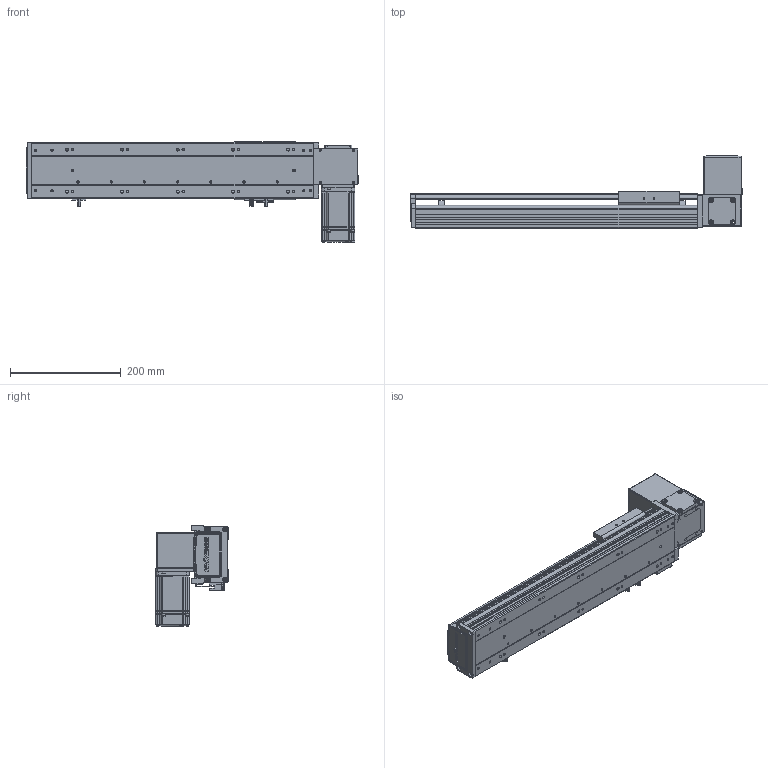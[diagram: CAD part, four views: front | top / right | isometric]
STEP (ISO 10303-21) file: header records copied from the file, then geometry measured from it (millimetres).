
FILE_DESCRIPTION (( 'STEP AP203' ), '1' );
FILE_NAME ('RY100-T-300-UL.SLDASM_300.step', '2024-04-25T08:38:52', ( '盈信电脑' ), ( '东莞市道滘镇水果街19号' ), 'SwSTEP 2.0', 'SolidWorks 2016', '' );
FILE_SCHEMA (( 'CONFIG_CONTROL_DESIGN' ));
Length unit declared in the file: millimetre
Products named in the file (15): RY100-T翋肮祭謫裔啣; RY100俋离覜茼え; RY100-T左右折电机安装板; RY100綴裔啣; RY100-T翋肮祭謫裔啣2; RY80-T肮祭謫奻殏俋欶; RY100-T-300-UL.SLDASM_300; RY100-T肮祭謫翋盓傅釱; 滅袉蝶18-10; RY100-T粣創揤踡裔; 覜茼ん672; RY100-T-300-RK倰第奻裔; RY100-T肮祭謫臏賑輸; RY100-T-300-RK倰第菁釱_300; 1
Assembly tree (18 placements, depth 2):
  RY100-T-300-UL.SLDASM_300
    RY100-T-300-RK倰第菁釱_300
    RY100-T-300-RK倰第奻裔
    RY100-T肮祭謫臏賑輸
    RY100綴裔啣
    覜茼ん672  x3
    RY100俋离覜茼え
    RY100-T肮祭謫翋盓傅釱
    RY100-T左右折电机安装板  x2
    滅袉蝶18-10  x2
    RY100-T翋肮祭謫裔啣2
    RY100-T翋肮祭謫裔啣
    1
    RY80-T肮祭謫奻殏俋欶
    RY100-T粣創揤踡裔
Bounding box: 600 x 130.5 x 182.5 mm (x, y, z)
Volume: 1540206.9 mm3; surface area: 599257 mm2
Topology: 18 solids, 18 shells, 2176 faces, 6021 edges, 3909 vertices
Faces by surface type: plane 1214, cylinder 757, cone 127, bspline 78
Entity records: 68041 total; most frequent: CARTESIAN_POINT 16236, ORIENTED_EDGE 10634, DIRECTION 10129, EDGE_CURVE 5317, VECTOR 3511, LINE 3511, VERTEX_POINT 3497, AXIS2_PLACEMENT_3D 3309
